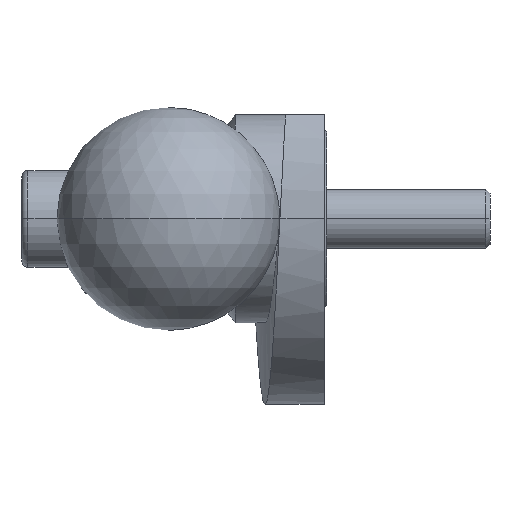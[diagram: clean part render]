
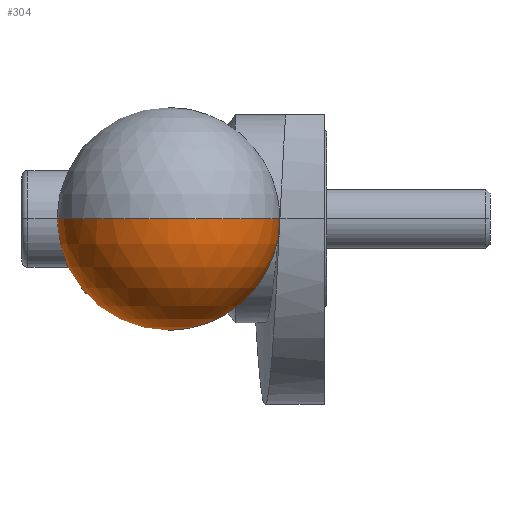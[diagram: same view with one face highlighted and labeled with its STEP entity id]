
A CAD part, left-side view. The second image highlights one B-rep face of the part: STEP entity #304.
In plain terms, the highlighted spherical face has radius 15 mm.
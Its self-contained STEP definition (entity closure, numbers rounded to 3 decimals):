
#16 = EDGE_LOOP ( 'NONE', ( #1367, #1715, #751 ) ) ;
#136 = DIRECTION ( 'NONE',  ( 0., 1., 0. ) ) ;
#186 = DIRECTION ( 'NONE',  ( 1., 0., 0. ) ) ;
#269 = EDGE_CURVE ( 'NONE', #1863, #1181, #639, .T. ) ;
#304 = ADVANCED_FACE ( 'NONE', ( #1195 ), #583, .T. ) ;
#314 = CIRCLE ( 'NONE', #644, 7.483 ) ;
#477 = AXIS2_PLACEMENT_3D ( 'NONE', #1740, #1592, #186 ) ;
#555 = CARTESIAN_POINT ( 'NONE',  ( -101., 9., 0. ) ) ;
#583 = SPHERICAL_SURFACE ( 'NONE', #1965, 15. ) ;
#603 = CARTESIAN_POINT ( 'NONE',  ( -88., 1.517, 0. ) ) ;
#639 = CIRCLE ( 'NONE', #477, 15. ) ;
#644 = AXIS2_PLACEMENT_3D ( 'NONE', #1845, #946, #136 ) ;
#693 = AXIS2_PLACEMENT_3D ( 'NONE', #555, #1145, #1758 ) ;
#732 = DIRECTION ( 'NONE',  ( 0., 0., -1. ) ) ;
#751 = ORIENTED_EDGE ( 'NONE', *, *, #1323, .F. ) ;
#753 = EDGE_CURVE ( 'NONE', #1863, #1594, #765, .T. ) ;
#765 = CIRCLE ( 'NONE', #693, 15. ) ;
#946 = DIRECTION ( 'NONE',  ( 1., 0., 0. ) ) ;
#1065 = CARTESIAN_POINT ( 'NONE',  ( -116., 9., 0. ) ) ;
#1145 = DIRECTION ( 'NONE',  ( 0., 0., -1. ) ) ;
#1181 = VERTEX_POINT ( 'NONE', #603 ) ;
#1195 = FACE_OUTER_BOUND ( 'NONE', #16, .T. ) ;
#1226 = DIRECTION ( 'NONE',  ( 0., -1., 0. ) ) ;
#1323 = EDGE_CURVE ( 'NONE', #1181, #1594, #314, .T. ) ;
#1332 = CARTESIAN_POINT ( 'NONE',  ( -88., 16.483, 0. ) ) ;
#1367 = ORIENTED_EDGE ( 'NONE', *, *, #269, .F. ) ;
#1592 = DIRECTION ( 'NONE',  ( 0., 0., 1. ) ) ;
#1594 = VERTEX_POINT ( 'NONE', #1332 ) ;
#1659 = CARTESIAN_POINT ( 'NONE',  ( -101., 9., 0. ) ) ;
#1715 = ORIENTED_EDGE ( 'NONE', *, *, #753, .T. ) ;
#1740 = CARTESIAN_POINT ( 'NONE',  ( -101., 9., 0. ) ) ;
#1758 = DIRECTION ( 'NONE',  ( 0., 1., 0. ) ) ;
#1845 = CARTESIAN_POINT ( 'NONE',  ( -88., 9., 0. ) ) ;
#1863 = VERTEX_POINT ( 'NONE', #1065 ) ;
#1965 = AXIS2_PLACEMENT_3D ( 'NONE', #1659, #732, #1226 ) ;
